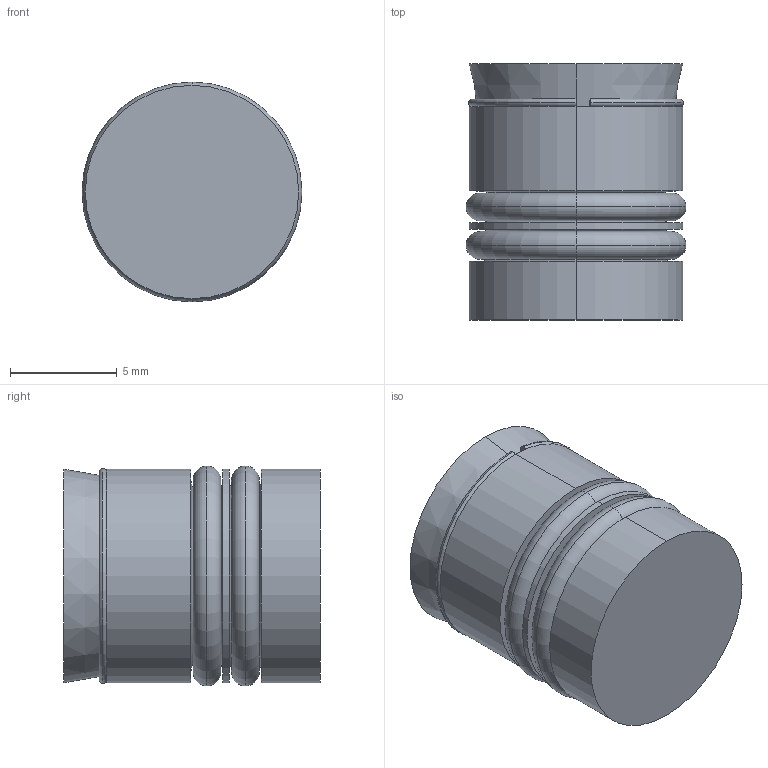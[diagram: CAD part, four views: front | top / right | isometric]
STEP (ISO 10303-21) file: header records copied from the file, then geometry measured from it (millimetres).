
FILE_DESCRIPTION (( 'STEP AP203' ), '1' );
FILE_NAME ('TCR2_10.STEP', '2023-04-24T12:07:16', ( '' ), ( '' ), 'SwSTEP 2.0', 'SolidWorks 2022', '' );
FILE_SCHEMA (( 'CONFIG_CONTROL_DESIGN' ));
Length unit declared in the file: millimetre
Products named in the file (1): TCR2_10
Bounding box: 10.3 x 12 x 10.3 mm (x, y, z)
Volume: 918.6 mm3; surface area: 891.8 mm2
Topology: 4 solids, 4 shells, 35 faces, 66 edges, 40 vertices
Faces by surface type: torus 18, plane 9, cylinder 6, cone 2
Entity records: 981 total; most frequent: DIRECTION 196, CARTESIAN_POINT 142, ORIENTED_EDGE 132, AXIS2_PLACEMENT_3D 94, EDGE_CURVE 66, CIRCLE 58, EDGE_LOOP 40, VERTEX_POINT 40
